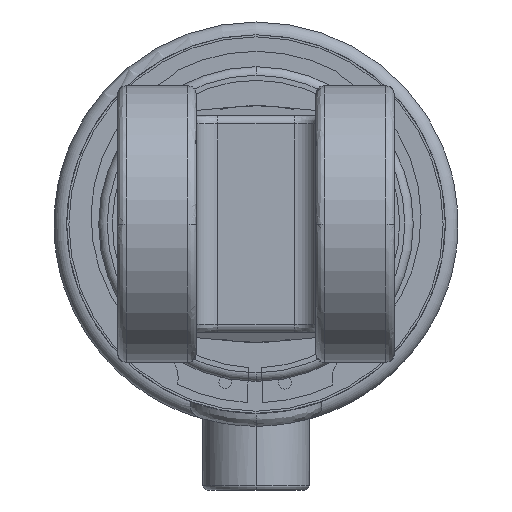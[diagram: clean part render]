
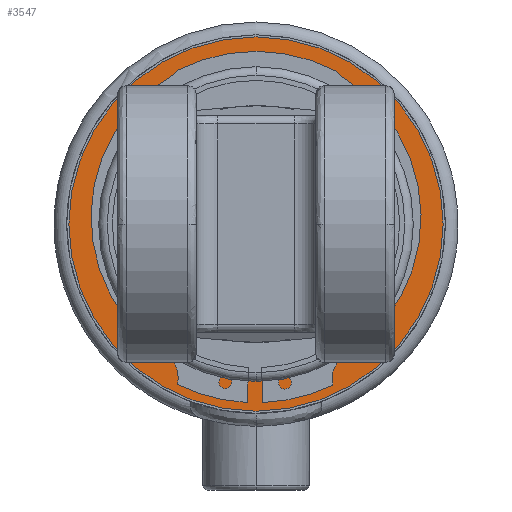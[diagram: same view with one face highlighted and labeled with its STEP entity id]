
A CAD part, left-side view. The second image highlights one B-rep face of the part: STEP entity #3547.
In plain terms, the highlighted planar face has unit normal (-1, 0, 0).
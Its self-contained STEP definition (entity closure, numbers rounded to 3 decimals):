
#575 = AXIS2_PLACEMENT_3D ( 'NONE', #9925, #4453, #10839 ) ;
#897 = VERTEX_POINT ( 'NONE', #8955 ) ;
#1009 = CARTESIAN_POINT ( 'NONE',  ( -723.005, 0., 0. ) ) ;
#1171 = DIRECTION ( 'NONE',  ( -1., 0., 0. ) ) ;
#1785 = VERTEX_POINT ( 'NONE', #7294 ) ;
#1920 = DIRECTION ( 'NONE',  ( 0., 0., 1. ) ) ;
#2321 = AXIS2_PLACEMENT_3D ( 'NONE', #3284, #9720, #4238 ) ;
#2553 = FACE_BOUND ( 'NONE', #2626, .T. ) ;
#2626 = EDGE_LOOP ( 'NONE', ( #4649, #5481 ) ) ;
#2703 = DIRECTION ( 'NONE',  ( -1., 0., 0. ) ) ;
#3284 = CARTESIAN_POINT ( 'NONE',  ( -723.005, 0., 0. ) ) ;
#3547 = ADVANCED_FACE ( 'NONE', ( #9010, #2553 ), #8201, .T. ) ;
#3615 = VERTEX_POINT ( 'NONE', #4622 ) ;
#3647 = CIRCLE ( 'NONE', #2321, 43.95 ) ;
#3654 = CIRCLE ( 'NONE', #575, 43.95 ) ;
#3655 = EDGE_CURVE ( 'NONE', #897, #1785, #6319, .T. ) ;
#3741 = VERTEX_POINT ( 'NONE', #5679 ) ;
#3988 = ORIENTED_EDGE ( 'NONE', *, *, #7216, .T. ) ;
#4238 = DIRECTION ( 'NONE',  ( 0., 0., 1. ) ) ;
#4453 = DIRECTION ( 'NONE',  ( -1., 0., 0. ) ) ;
#4622 = CARTESIAN_POINT ( 'NONE',  ( -723.005, 0., 43.95 ) ) ;
#4649 = ORIENTED_EDGE ( 'NONE', *, *, #11612, .F. ) ;
#5219 = ORIENTED_EDGE ( 'NONE', *, *, #8345, .T. ) ;
#5225 = AXIS2_PLACEMENT_3D ( 'NONE', #6684, #1171, #7584 ) ;
#5481 = ORIENTED_EDGE ( 'NONE', *, *, #3655, .F. ) ;
#5679 = CARTESIAN_POINT ( 'NONE',  ( -723.005, 0., -43.95 ) ) ;
#6319 = CIRCLE ( 'NONE', #9126, 36.95 ) ;
#6684 = CARTESIAN_POINT ( 'NONE',  ( -723.005, 0., 0. ) ) ;
#7216 = EDGE_CURVE ( 'NONE', #3615, #3741, #3654, .T. ) ;
#7294 = CARTESIAN_POINT ( 'NONE',  ( -723.005, 0., 36.95 ) ) ;
#7300 = AXIS2_PLACEMENT_3D ( 'NONE', #8158, #2703, #9134 ) ;
#7429 = DIRECTION ( 'NONE',  ( -1., 0., 0. ) ) ;
#7584 = DIRECTION ( 'NONE',  ( 0., 0., 1. ) ) ;
#8158 = CARTESIAN_POINT ( 'NONE',  ( -723.005, 0., -43.95 ) ) ;
#8201 = PLANE ( 'NONE',  #7300 ) ;
#8345 = EDGE_CURVE ( 'NONE', #3741, #3615, #3647, .T. ) ;
#8800 = CIRCLE ( 'NONE', #5225, 36.95 ) ;
#8955 = CARTESIAN_POINT ( 'NONE',  ( -723.005, 0., -36.95 ) ) ;
#9010 = FACE_OUTER_BOUND ( 'NONE', #10143, .T. ) ;
#9126 = AXIS2_PLACEMENT_3D ( 'NONE', #1009, #7429, #1920 ) ;
#9134 = DIRECTION ( 'NONE',  ( 0., 0., 1. ) ) ;
#9720 = DIRECTION ( 'NONE',  ( -1., 0., 0. ) ) ;
#9925 = CARTESIAN_POINT ( 'NONE',  ( -723.005, 0., 0. ) ) ;
#10143 = EDGE_LOOP ( 'NONE', ( #3988, #5219 ) ) ;
#10839 = DIRECTION ( 'NONE',  ( 0., 0., 1. ) ) ;
#11612 = EDGE_CURVE ( 'NONE', #1785, #897, #8800, .T. ) ;
